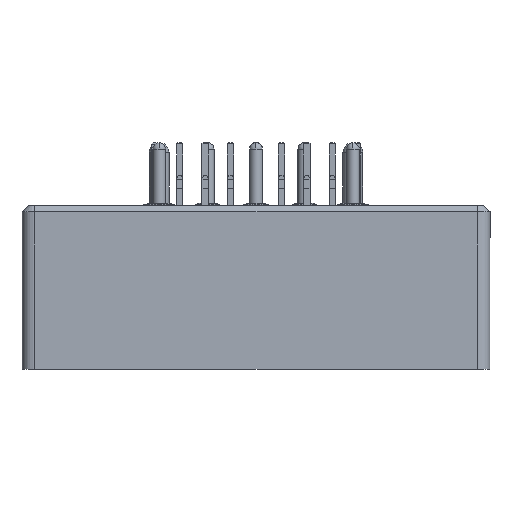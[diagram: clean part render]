
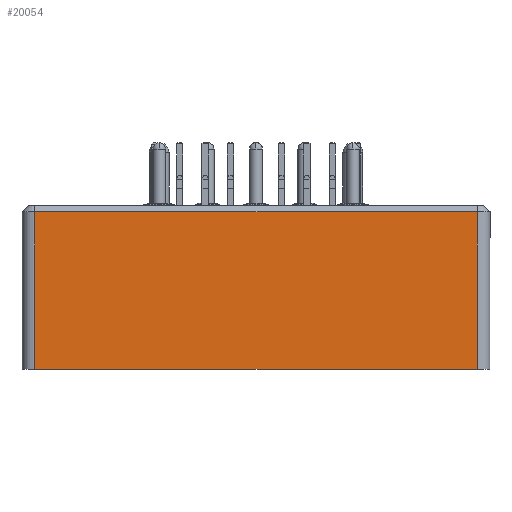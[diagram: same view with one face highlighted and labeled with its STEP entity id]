
A CAD part, left-side view. The second image highlights one B-rep face of the part: STEP entity #20054.
In plain terms, the highlighted planar face has unit normal (-1, 0, 0).
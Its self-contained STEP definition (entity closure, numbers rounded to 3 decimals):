
#164 = PLANE ( 'NONE',  #27285 ) ;
#1062 = DIRECTION ( 'NONE',  ( 0., 0., -1. ) ) ;
#1303 = LINE ( 'NONE', #10036, #24412 ) ;
#1356 = CARTESIAN_POINT ( 'NONE',  ( -1.01, -0.015, 3. ) ) ;
#1593 = EDGE_CURVE ( 'NONE', #13708, #27360, #21323, .T. ) ;
#2061 = DIRECTION ( 'NONE',  ( 0., 1., 0. ) ) ;
#3496 = ORIENTED_EDGE ( 'NONE', *, *, #10039, .T. ) ;
#3629 = DIRECTION ( 'NONE',  ( 0., 0., -1. ) ) ;
#4102 = CARTESIAN_POINT ( 'NONE',  ( -1.01, -0.015, 2.65 ) ) ;
#4499 = ORIENTED_EDGE ( 'NONE', *, *, #5078, .T. ) ;
#4728 = LINE ( 'NONE', #9520, #4824 ) ;
#4824 = VECTOR ( 'NONE', #25148, 1000. ) ;
#5078 = EDGE_CURVE ( 'NONE', #27092, #24917, #1303, .T. ) ;
#7391 = ORIENTED_EDGE ( 'NONE', *, *, #12221, .T. ) ;
#8152 = CARTESIAN_POINT ( 'NONE',  ( -1.01, 35.815, -9.75 ) ) ;
#8226 = VECTOR ( 'NONE', #1062, 1000. ) ;
#9520 = CARTESIAN_POINT ( 'NONE',  ( -1.01, 34.815, 2.65 ) ) ;
#10036 = CARTESIAN_POINT ( 'NONE',  ( -1.01, 34.815, 3. ) ) ;
#10039 = EDGE_CURVE ( 'NONE', #24917, #27360, #28131, .T. ) ;
#10418 = VECTOR ( 'NONE', #23772, 1000. ) ;
#12221 = EDGE_CURVE ( 'NONE', #13708, #27092, #4728, .T. ) ;
#13410 = FACE_OUTER_BOUND ( 'NONE', #14291, .T. ) ;
#13708 = VERTEX_POINT ( 'NONE', #4102 ) ;
#14291 = EDGE_LOOP ( 'NONE', ( #4499, #3496, #20529, #7391 ) ) ;
#15962 = CARTESIAN_POINT ( 'NONE',  ( -1.01, 34.815, 2.65 ) ) ;
#20054 = ADVANCED_FACE ( 'NONE', ( #13410 ), #164, .F. ) ;
#20529 = ORIENTED_EDGE ( 'NONE', *, *, #1593, .F. ) ;
#21323 = LINE ( 'NONE', #1356, #8226 ) ;
#22318 = CARTESIAN_POINT ( 'NONE',  ( -1.01, 17.4, 3. ) ) ;
#23772 = DIRECTION ( 'NONE',  ( 0., -1., 0. ) ) ;
#24368 = DIRECTION ( 'NONE',  ( 1., 0., 0. ) ) ;
#24412 = VECTOR ( 'NONE', #3629, 1000. ) ;
#24917 = VERTEX_POINT ( 'NONE', #26866 ) ;
#25148 = DIRECTION ( 'NONE',  ( 0., 1., 0. ) ) ;
#26866 = CARTESIAN_POINT ( 'NONE',  ( -1.01, 34.815, -9.75 ) ) ;
#27092 = VERTEX_POINT ( 'NONE', #15962 ) ;
#27285 = AXIS2_PLACEMENT_3D ( 'NONE', #22318, #24368, #2061 ) ;
#27360 = VERTEX_POINT ( 'NONE', #28795 ) ;
#28131 = LINE ( 'NONE', #8152, #10418 ) ;
#28795 = CARTESIAN_POINT ( 'NONE',  ( -1.01, -0.015, -9.75 ) ) ;
